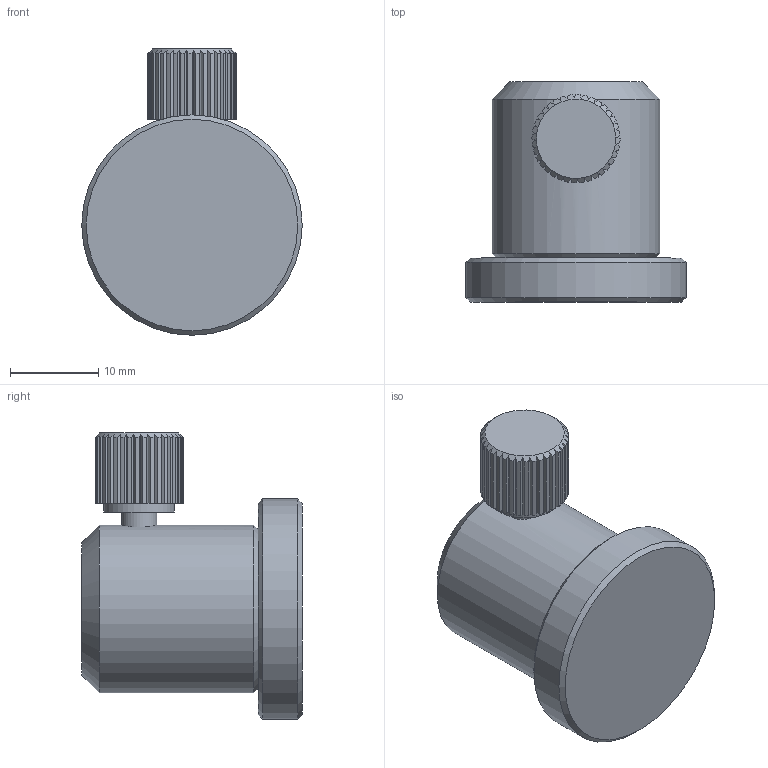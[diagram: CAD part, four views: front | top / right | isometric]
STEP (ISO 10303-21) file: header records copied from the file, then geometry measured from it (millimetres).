
FILE_DESCRIPTION (( 'STEP AP203' ), '1' );
FILE_NAME ('PHF8-20.step', '2017-01-11T07:25:40', ( '¦K¬P' ), ( '' ), 'SwSTEP 2.0', 'SolidWorks 2012', '' );
FILE_SCHEMA (( 'CONFIG_CONTROL_DESIGN' ));
Length unit declared in the file: millimetre
Products named in the file (1): PHF8-20
Bounding box: 25 x 25 x 32.5 mm (x, y, z)
Surface area: 3688.1 mm2 (no closed solid volume)
Topology: 0 solids, 3 shells, 129 faces, 364 edges, 241 vertices
Faces by surface type: plane 82, cylinder 42, cone 5
Full cylindrical faces by diameter (mm): 4 x2, 8 x1, 19 x1, 25 x1
Entity records: 4355 total; most frequent: CARTESIAN_POINT 1048, ORIENTED_EDGE 698, DIRECTION 626, EDGE_CURVE 352, VERTEX_POINT 240, AXIS2_PLACEMENT_3D 218, LINE 190, VECTOR 190
